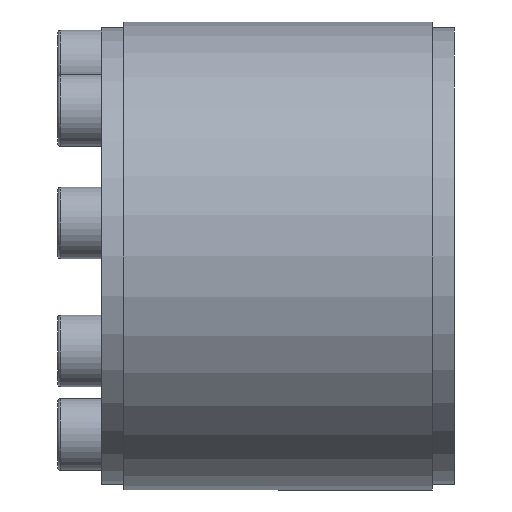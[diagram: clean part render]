
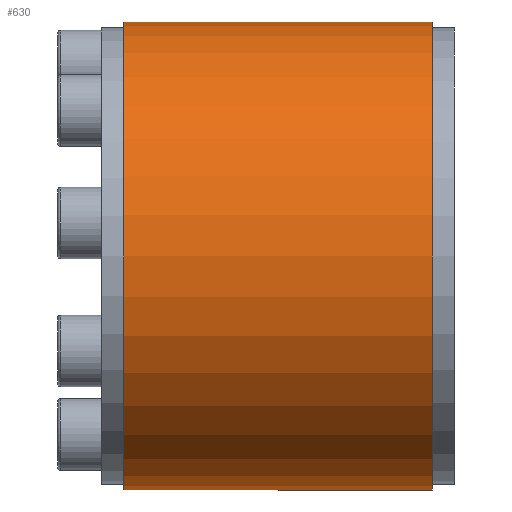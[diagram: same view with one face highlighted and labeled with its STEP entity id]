
A CAD part, left-side view. The second image highlights one B-rep face of the part: STEP entity #630.
In plain terms, the highlighted cylindrical face has radius 42.5 mm (diameter 85 mm), a partial arc.
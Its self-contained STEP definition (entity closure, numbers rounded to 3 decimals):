
#111 = EDGE_LOOP ( 'NONE', ( #1698, #2574, #2825, #1772 ) ) ;
#152 = DIRECTION ( 'NONE',  ( 0., -1., 0. ) ) ;
#222 = EDGE_CURVE ( 'NONE', #2270, #2081, #2474, .T. ) ;
#272 = DIRECTION ( 'NONE',  ( 0., -1., 0. ) ) ;
#279 = AXIS2_PLACEMENT_3D ( 'NONE', #1341, #272, #626 ) ;
#307 = CIRCLE ( 'NONE', #2201, 42.5 ) ;
#626 = DIRECTION ( 'NONE',  ( 0., 0., -1. ) ) ;
#630 = ADVANCED_FACE ( 'NONE', ( #1674 ), #3211, .T. ) ;
#643 = CARTESIAN_POINT ( 'NONE',  ( 0., 0., 42.5 ) ) ;
#679 = VECTOR ( 'NONE', #1850, 1000. ) ;
#780 = VERTEX_POINT ( 'NONE', #2603 ) ;
#1036 = CARTESIAN_POINT ( 'NONE',  ( 0., -28., 42.5 ) ) ;
#1101 = CARTESIAN_POINT ( 'NONE',  ( 0., 28., 42.5 ) ) ;
#1251 = CARTESIAN_POINT ( 'NONE',  ( 0., -28., 0. ) ) ;
#1292 = DIRECTION ( 'NONE',  ( 0., -1., 0. ) ) ;
#1341 = CARTESIAN_POINT ( 'NONE',  ( 0., 0., 0. ) ) ;
#1575 = CARTESIAN_POINT ( 'NONE',  ( 0., 28., 0. ) ) ;
#1593 = VERTEX_POINT ( 'NONE', #2190 ) ;
#1674 = FACE_OUTER_BOUND ( 'NONE', #111, .T. ) ;
#1698 = ORIENTED_EDGE ( 'NONE', *, *, #222, .F. ) ;
#1756 = AXIS2_PLACEMENT_3D ( 'NONE', #1575, #2623, #2880 ) ;
#1772 = ORIENTED_EDGE ( 'NONE', *, *, #2016, .F. ) ;
#1850 = DIRECTION ( 'NONE',  ( 0., -1., 0. ) ) ;
#2016 = EDGE_CURVE ( 'NONE', #2081, #1593, #307, .T. ) ;
#2081 = VERTEX_POINT ( 'NONE', #1036 ) ;
#2190 = CARTESIAN_POINT ( 'NONE',  ( 0., -28., -42.5 ) ) ;
#2201 = AXIS2_PLACEMENT_3D ( 'NONE', #1251, #1292, #2341 ) ;
#2270 = VERTEX_POINT ( 'NONE', #1101 ) ;
#2341 = DIRECTION ( 'NONE',  ( 0., 0., -1. ) ) ;
#2446 = EDGE_CURVE ( 'NONE', #2270, #780, #3280, .T. ) ;
#2458 = EDGE_CURVE ( 'NONE', #780, #1593, #2904, .T. ) ;
#2474 = LINE ( 'NONE', #643, #3306 ) ;
#2574 = ORIENTED_EDGE ( 'NONE', *, *, #2446, .T. ) ;
#2603 = CARTESIAN_POINT ( 'NONE',  ( 0., 28., -42.5 ) ) ;
#2623 = DIRECTION ( 'NONE',  ( 0., -1., 0. ) ) ;
#2825 = ORIENTED_EDGE ( 'NONE', *, *, #2458, .T. ) ;
#2880 = DIRECTION ( 'NONE',  ( 0., 0., -1. ) ) ;
#2904 = LINE ( 'NONE', #3176, #679 ) ;
#3176 = CARTESIAN_POINT ( 'NONE',  ( 0., 0., -42.5 ) ) ;
#3211 = CYLINDRICAL_SURFACE ( 'NONE', #279, 42.5 ) ;
#3280 = CIRCLE ( 'NONE', #1756, 42.5 ) ;
#3306 = VECTOR ( 'NONE', #152, 1000. ) ;
